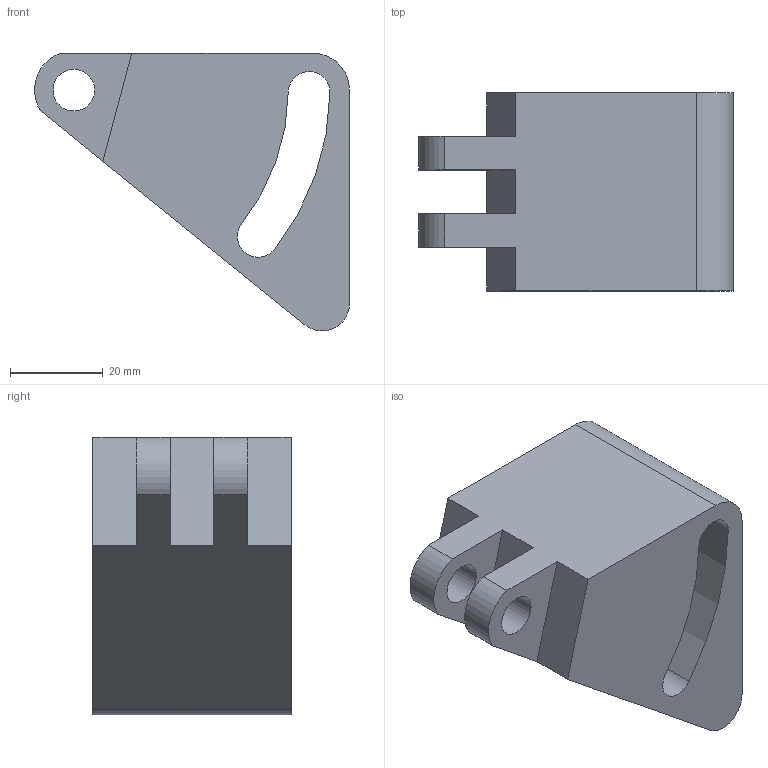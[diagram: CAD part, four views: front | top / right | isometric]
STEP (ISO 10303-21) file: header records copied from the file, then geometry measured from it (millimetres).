
FILE_DESCRIPTION((''),'2;1');
FILE_NAME('P1339','2012-03-13T',('jas'),(''),'PRO/ENGINEER BY PARAMETRIC TECHNOLOGY CORPORATION, 2011490','PRO/ENGINEER BY PARAMETRIC TECHNOLOGY CORPORATION, 2011490','');
FILE_SCHEMA(('AUTOMOTIVE_DESIGN { 1 0 10303 214 1 1 1 1 }'));
Length unit declared in the file: millimetre
Products named in the file (1): P1339
Bounding box: 67.98 x 42.8 x 60 mm (x, y, z)
Volume: 85239.5 mm3; surface area: 17849.2 mm2
Topology: 1 solids, 1 shells, 24 faces, 66 edges, 44 vertices
Faces by surface type: plane 12, cylinder 12
Entity records: 1362 total; most frequent: DIRECTION 138, CARTESIAN_POINT 136, ORIENTED_EDGE 132, PRESENTATION_STYLE_ASSIGNMENT 67, STYLED_ITEM 67, CURVE_STYLE 66, EDGE_CURVE 66, PROPERTY_DEFINITION 59
